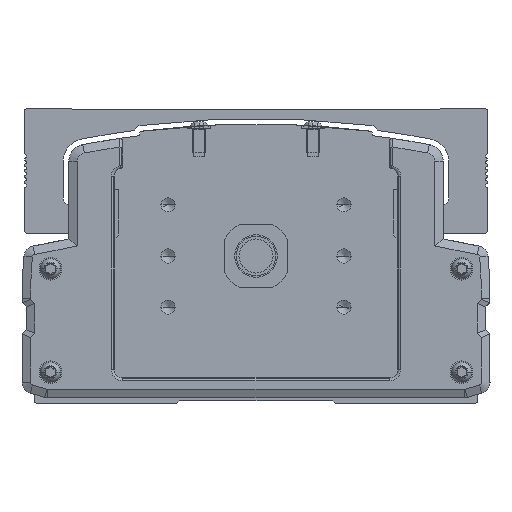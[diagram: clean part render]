
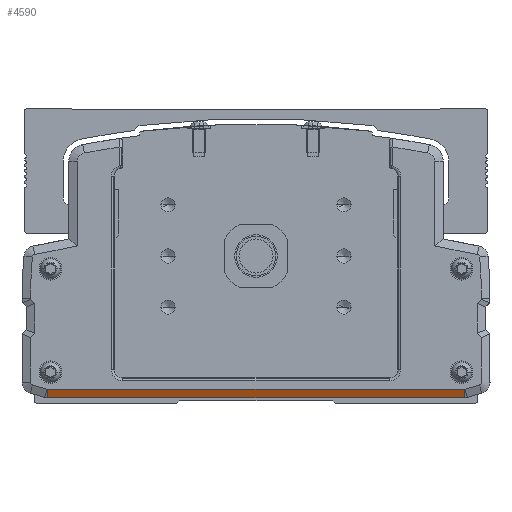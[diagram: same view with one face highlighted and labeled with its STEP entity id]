
A CAD part, front view. The second image highlights one B-rep face of the part: STEP entity #4590.
In plain terms, the highlighted planar face has unit normal (0, -0.894, -0.447).
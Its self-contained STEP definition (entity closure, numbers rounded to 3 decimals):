
#4590=ADVANCED_FACE('',(#10106),#10107,.F.);
#10106=FACE_OUTER_BOUND('',#17731,.T.);
#10107=PLANE('',#17732);
#17731=EDGE_LOOP('',(#32125,#32126,#32127,#32128));
#17732=AXIS2_PLACEMENT_3D('',#32129,#32130,#32131);
#32125=ORIENTED_EDGE('',*,*,#45530,.T.);
#32126=ORIENTED_EDGE('',*,*,#46337,.F.);
#32127=ORIENTED_EDGE('',*,*,#46338,.F.);
#32128=ORIENTED_EDGE('',*,*,#42403,.F.);
#32129=CARTESIAN_POINT('',(-599.999,-336.278,-50.001));
#32130=DIRECTION('',(0.,0.894,0.447));
#32131=DIRECTION('',(0.,0.447,-0.894));
#42403=EDGE_CURVE('',#51111,#51113,#51114,.T.);
#45530=EDGE_CURVE('',#51111,#56021,#56023,.T.);
#46337=EDGE_CURVE('',#56167,#56021,#57120,.T.);
#46338=EDGE_CURVE('',#51113,#56167,#57121,.T.);
#51111=VERTEX_POINT('',#63777);
#51113=VERTEX_POINT('',#63779);
#51114=LINE('',#63780,#63781);
#56021=VERTEX_POINT('',#71329);
#56023=LINE('',#71331,#71332);
#56167=VERTEX_POINT('',#71539);
#57120=LINE('',#72944,#72945);
#57121=LINE('',#72946,#72947);
#63777=CARTESIAN_POINT('',(-673.423,-337.778,-47.001));
#63779=CARTESIAN_POINT('',(-526.575,-337.778,-47.001));
#63780=CARTESIAN_POINT('',(-600.015,-337.778,-47.001));
#63781=VECTOR('',#78532,1000.0);
#71329=CARTESIAN_POINT('',(-673.423,-336.278,-50.001));
#71331=CARTESIAN_POINT('',(-673.423,-337.778,-47.001));
#71332=VECTOR('',#82302,1000.0);
#71539=CARTESIAN_POINT('',(-526.575,-336.278,-50.001));
#72944=CARTESIAN_POINT('',(-599.999,-336.278,-50.001));
#72945=VECTOR('',#83296,1000.0);
#72946=CARTESIAN_POINT('',(-526.575,-337.778,-47.001));
#72947=VECTOR('',#83297,1000.0);
#78532=DIRECTION('',(1.0,0.,0.));
#82302=DIRECTION('',(0.,0.447,-0.894));
#83296=DIRECTION('',(-1.0,0.,0.));
#83297=DIRECTION('',(0.,0.447,-0.894));
